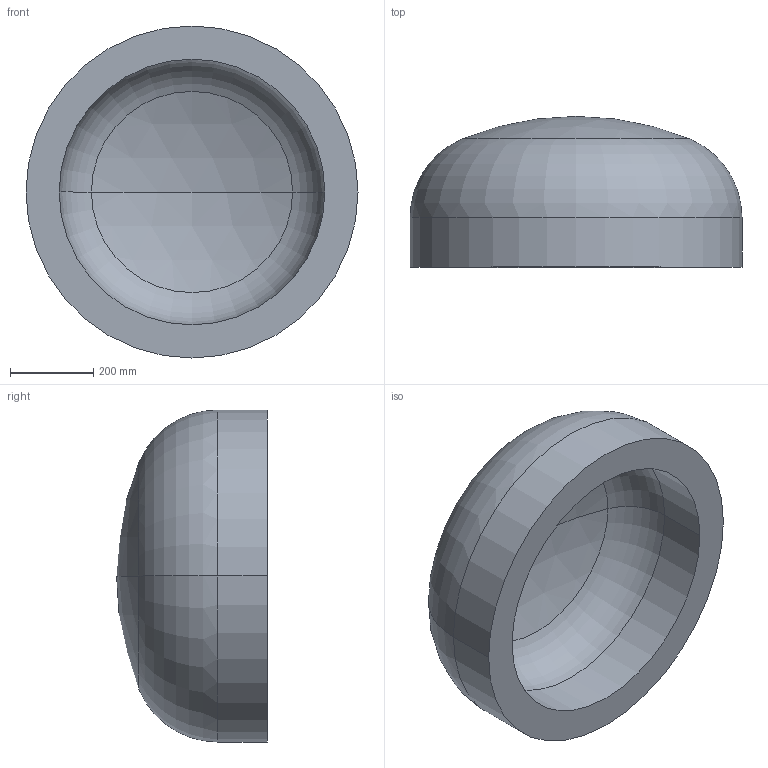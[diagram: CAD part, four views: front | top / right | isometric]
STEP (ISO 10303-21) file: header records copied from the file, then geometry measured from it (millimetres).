
FILE_DESCRIPTION (( 'STEP AP203' ), '1' );
FILE_NAME ('DIN 28013 Korbbogenform_-_Boden DIN 28013 - 800 x 120 - I - s=80.step', '2016-07-01T08:21:02', ( '' ), ( '' ), 'SwSTEP 2.0', 'SolidWorks 2013', '' );
FILE_SCHEMA (( 'CONFIG_CONTROL_DESIGN' ));
Length unit declared in the file: millimetre
Products named in the file (1): DIN 28013 Korbbogenform_-_Boden DIN 28013 - 800 x 120 - I - s=80
Bounding box: 800 x 363.35 x 800 mm (x, y, z)
Volume: 71078292.3 mm3; surface area: 1971316.9 mm2
Topology: 1 solids, 1 shells, 13 faces, 24 edges, 14 vertices
Faces by surface type: torus 4, cylinder 4, sphere 4, plane 1
Entity records: 407 total; most frequent: DIRECTION 72, CARTESIAN_POINT 52, ORIENTED_EDGE 48, AXIS2_PLACEMENT_3D 34, EDGE_CURVE 24, CIRCLE 20, EDGE_LOOP 14, VERTEX_POINT 14
